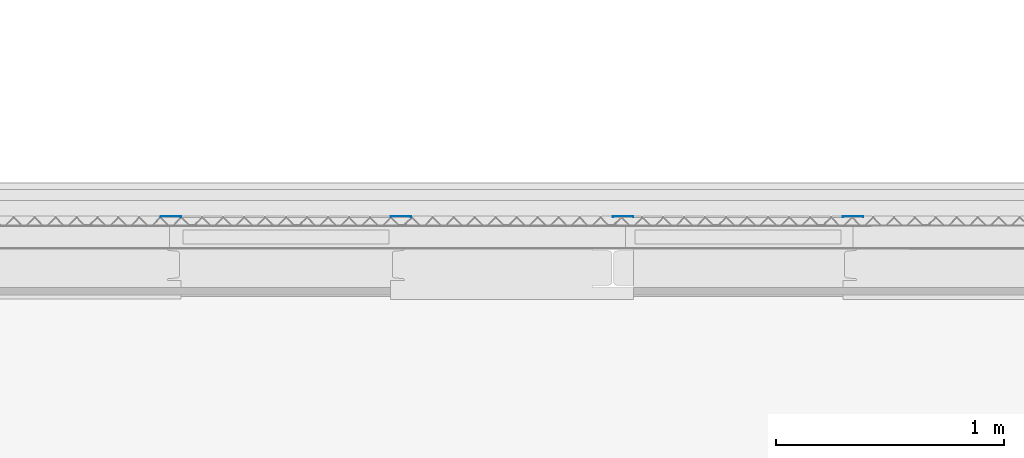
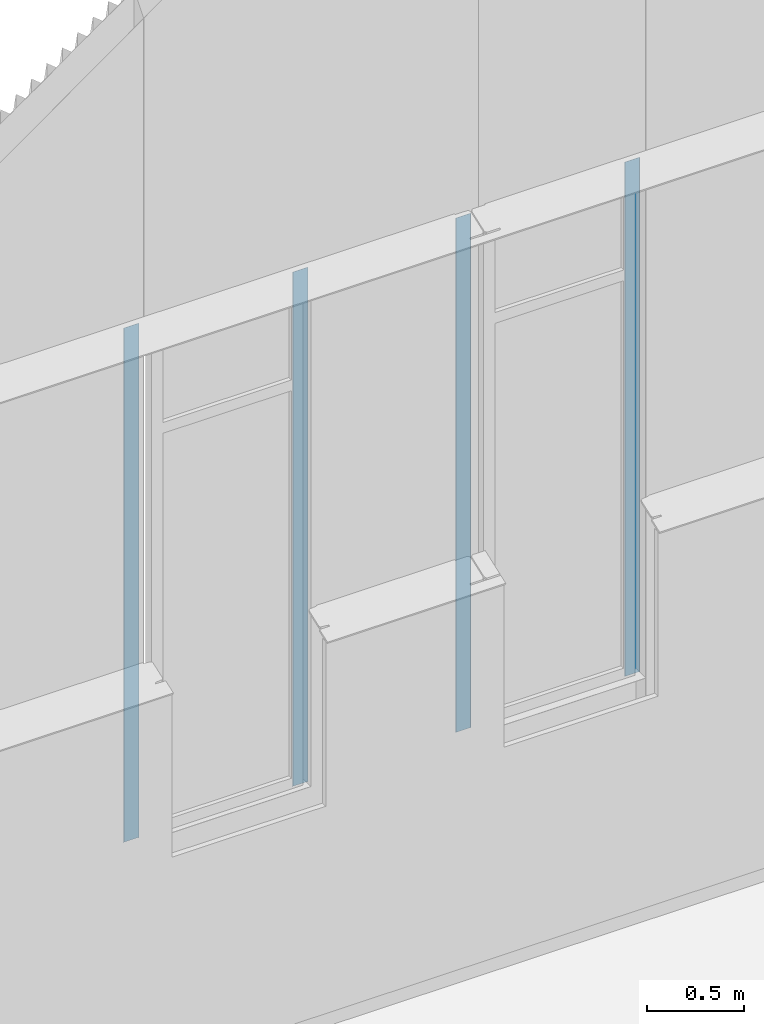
# One storey, part 35 of 338: 4 columns.
"""IFC2X3 building model written with IfcOpenShell, lengths in millimetres."""

import ifcopenshell
import ifcopenshell.guid

model = None  # the IFC model being written
_history = None  # IfcOwnerHistory: only IFC2X3 demands one
_inside = {}  # id of a spatial element -> (the spatial element, [elements in it])
_under = {}  # id of a project, library or spatial element -> (it, [spatial elements below it])
_declared = {}  # id of a project -> (the project, [libraries it declares])
_typed = {}  # id of a type object -> (the type object, [elements of that type])
_made_of = {}  # id of a material, layer set ... -> (it, [elements and type objects made of it])


def new_model(schema):
    """Start an empty IFC model of exactly this schema.

    Asked for "IFC4X3", IfcOpenShell would pick the latest addendum, in which some entities
    have other attributes; the version numbers below select the first issue.
    IFC2X3 requires an IfcOwnerHistory on every rooted entity: one is made here for all.
    """
    global model, _history
    if schema == "IFC4X3":
        model = ifcopenshell.file(schema_version=(4, 3, 0, 0))
    else:
        model = ifcopenshell.file(schema=schema)
    _inside.clear()
    _under.clear()
    _declared.clear()
    _typed.clear()
    _made_of.clear()
    _history = None
    if model.schema == "IFC2X3":
        org = make("IfcOrganization", Name="unknown")
        user = make(
            "IfcPersonAndOrganization",
            ThePerson=make("IfcPerson", FamilyName="unknown"),
            TheOrganization=org,
        )
        app = make(
            "IfcApplication",
            ApplicationDeveloper=org,
            Version="unknown",
            ApplicationFullName="unknown",
            ApplicationIdentifier="unknown",
        )
        _history = make(
            "IfcOwnerHistory",
            OwningUser=user,
            OwningApplication=app,
            ChangeAction="ADDED",
            CreationDate=0,
        )
    return model


def make(cls, **values):
    """One entity of the class cls with the attributes given. An attribute that is None is left unset."""
    return model.create_entity(
        cls, **{name: value for name, value in values.items() if value is not None}
    )


def entity(cls, *values):
    """Any entity or typed value of the class cls, its attributes in the order of the schema. None: left unset."""
    e = model.create_entity(cls)
    for i, value in enumerate(values):
        if value is not None:
            e[i] = value
    return e


def rooted(cls, **values):
    """An entity with a GlobalId (a new one), such as an element, a storey or a relation."""
    return make(cls, GlobalId=ifcopenshell.guid.new(), OwnerHistory=_history, **values)


def si_unit(unit_type, name, prefix=None):
    """IfcSIUnit, for example si_unit("LENGTHUNIT", "METRE", prefix="MILLI")."""
    return make("IfcSIUnit", UnitType=unit_type, Prefix=prefix, Name=name)


def converted_unit(unit_type, name, factor, base, dimensions=None, offset=None):
    """IfcConversionBasedUnit, such as the inch: factor (a typed value) times the base unit."""
    return make(
        "IfcConversionBasedUnit"
        if offset is None
        else "IfcConversionBasedUnitWithOffset",
        ConversionOffset=offset,
        Dimensions=None
        if dimensions is None
        else entity("IfcDimensionalExponents", *dimensions),
        UnitType=unit_type,
        Name=name,
        ConversionFactor=make(
            "IfcMeasureWithUnit", ValueComponent=factor, UnitComponent=base
        ),
    )


def derived_unit(unit_type, elements):
    """IfcDerivedUnit: a product of units, each with its exponent."""
    return make(
        "IfcDerivedUnit",
        Elements=[
            make("IfcDerivedUnitElement", Unit=unit, Exponent=power)
            for unit, power in elements
        ],
        UnitType=unit_type,
    )


def money_unit(currency):
    """IfcMonetaryUnit."""
    return make("IfcMonetaryUnit", Currency=currency)


def assignment(units):
    """IfcUnitAssignment: the units of a project."""
    return None if units is None else make("IfcUnitAssignment", Units=units)


def point(xyz):
    """IfcCartesianPoint."""
    return None if xyz is None else make("IfcCartesianPoint", Coordinates=xyz)


def direction(xyz):
    """IfcDirection."""
    return None if xyz is None else make("IfcDirection", DirectionRatios=xyz)


def frame(location, z_axis=None, x_axis=None):
    """IfcAxis2Placement3D, a coordinate frame: its origin and axes. An axis left out is left unset."""
    return make(
        "IfcAxis2Placement3D",
        Location=point(location),
        Axis=direction(z_axis),
        RefDirection=direction(x_axis),
    )


def origin_with_axes():
    """The frame at (0, 0, 0) with the z axis (0, 0, 1) and the x axis (1, 0, 0) written out."""
    return frame((0.0, 0.0, 0.0), z_axis=(0.0, 0.0, 1.0), x_axis=(1.0, 0.0, 0.0))


def place(relative_to, where):
    """IfcLocalPlacement: puts the frame where relative to a parent placement (None: the world)."""
    return make(
        "IfcLocalPlacement", PlacementRelTo=relative_to, RelativePlacement=where
    )


def context(
    kind, dimensions, precision=None, world=None, true_north=None, identifier=None
):
    """IfcGeometricRepresentationContext, for example the 3D "Model" context."""
    return make(
        "IfcGeometricRepresentationContext",
        ContextIdentifier=identifier,
        ContextType=kind,
        CoordinateSpaceDimension=dimensions,
        Precision=precision,
        WorldCoordinateSystem=world,
        TrueNorth=true_north,
    )


def subcontext(parent, identifier, kind, view, scale=None):
    """IfcGeometricRepresentationSubContext, for example "Body" below "Model"."""
    return make(
        "IfcGeometricRepresentationSubContext",
        ContextIdentifier=identifier,
        ContextType=kind,
        ParentContext=parent,
        TargetScale=scale,
        TargetView=view,
    )


def project(units=None, contexts=None):
    """IfcProject with its units and contexts."""
    return rooted(
        "IfcProject",
        Name="project",
        RepresentationContexts=contexts,
        UnitsInContext=assignment(units),
    )


def spatial(cls, under=None, at=None, **own):
    """A site, building, storey or space (cls), placed at a placement, below another one or the project."""
    s = rooted(cls, ObjectPlacement=at, **own)
    if under is not None:
        _under.setdefault(under.id(), (under, []))[1].append(s)
    return s


def faces_of(points, faces, orient=None, outer=None):
    """IfcFace entities. A face is a list of loops; a loop is a list of indices into points, from 0.

    orient and outer hold one flag for each loop. By default every Orientation is true, the
    first loop of a face is its IfcFaceOuterBound and the others are IfcFaceBound.
    """
    made = []
    for i, loops in enumerate(faces):
        bounds = []
        for j, loop in enumerate(loops):
            is_outer = j == 0 if outer is None else outer[i][j]
            bounds.append(
                make(
                    "IfcFaceOuterBound" if is_outer else "IfcFaceBound",
                    Bound=make("IfcPolyLoop", Polygon=[points[k] for k in loop]),
                    Orientation=True if orient is None else orient[i][j],
                )
            )
        made.append(make("IfcFace", Bounds=bounds))
    return made


def faceted_brep(points, faces, orient=None, outer=None, voids=None):
    """IfcFacetedBrep: a solid bounded by flat faces; with voids (closed shells), ...WithVoids."""
    shared = [point(p) for p in points]
    hull = make("IfcClosedShell", CfsFaces=faces_of(shared, faces, orient, outer))
    if voids is None:
        return make("IfcFacetedBrep", Outer=hull)
    return make(
        "IfcFacetedBrepWithVoids",
        Outer=hull,
        Voids=[
            make(cls, CfsFaces=faces_of(shared, fs, o, b)) for cls, fs, o, b in voids
        ],
    )


def shape(context_of_items, identifier, shape_type, items):
    """IfcShapeRepresentation: the items that make up one representation, for example the "Body"."""
    return make(
        "IfcShapeRepresentation",
        ContextOfItems=context_of_items,
        RepresentationIdentifier=identifier,
        RepresentationType=shape_type,
        Items=items,
    )


def material(Name=None, Category=None):
    """IfcMaterial."""
    return make("IfcMaterial", Name=Name, Category=Category)


def made_of(thing, what):
    """Note that an element or type object is made of a material, layer set ...; save() writes the relation."""
    if what is not None:
        _made_of.setdefault(what.id(), (what, []))[1].append(thing)
    return thing


def type_object(cls, material=None, **own):
    """A type object (cls), such as IfcWallType, which elements share."""
    return made_of(rooted(cls, **own), material)


def element(
    cls,
    number,
    at=None,
    inside=None,
    cuts=None,
    type_object=None,
    material=None,
    context=None,
    identifier="Body",
    shape_type=None,
    held_by="IfcProductDefinitionShape",
    body=None,
    shapes=None,
    **own,
):
    """One element of the class cls, such as IfcWall. Its Tag is "e" and its number.

    at: its placement. inside: the storey or other place that contains it. cuts: it is an
    opening in that element (IfcRelVoidsElement). A single representation is given by context,
    identifier, shape_type and body (its items); several are given by shapes. held_by: the class
    of the entity that holds the representations. save() writes the other relations.
    """
    e = rooted(cls, Tag="e%d" % number, ObjectPlacement=at, **own)
    if body is not None:
        shapes = [shape(context, identifier, shape_type, body)]
    if shapes is not None:
        e.Representation = make(held_by, Representations=shapes)
    if inside is not None:
        _inside.setdefault(inside.id(), (inside, []))[1].append(e)
    if cuts is not None:
        rooted(
            "IfcRelVoidsElement", RelatingBuildingElement=cuts, RelatedOpeningElement=e
        )
    if type_object is not None:
        _typed.setdefault(type_object.id(), (type_object, []))[1].append(e)
    return made_of(e, material)


def aggregate(whole, parts):
    """IfcRelAggregates: a whole, such as a stair, and the parts it consists of."""
    return rooted("IfcRelAggregates", RelatingObject=whole, RelatedObjects=parts)


def save(model, path):
    """Write the relations noted so far, then the file.

    IfcRelAggregates (storeys below a building ...), IfcRelContainedInSpatialStructure (elements
    in a storey), IfcRelDefinesByType, IfcRelAssociatesMaterial and IfcRelDeclares: one each for
    every whole, place, type object, material and project.
    """
    for whole, parts in _under.values():
        aggregate(whole, parts)
    for where, things in _inside.values():
        rooted(
            "IfcRelContainedInSpatialStructure",
            RelatedElements=things,
            RelatingStructure=where,
        )
    for kind, things in _typed.values():
        rooted("IfcRelDefinesByType", RelatedObjects=things, RelatingType=kind)
    for what, things in _made_of.values():
        rooted("IfcRelAssociatesMaterial", RelatedObjects=things, RelatingMaterial=what)
    for by, libraries in _declared.values():
        rooted("IfcRelDeclares", RelatingContext=by, RelatedDefinitions=libraries)
    model.write(path)


model = new_model("IFC2X3")

# Units and contexts
model_context = context("Model", 3, precision=0.01, world=origin_with_axes(), true_north=direction((0.0, 1.0)))
plan_context = context("Plan", 3, precision=0.01, world=origin_with_axes(), true_north=direction((0.0, 1.0)))
body_context = subcontext(model_context, "Body", "Model", "MODEL_VIEW")
ifc_project = project(units=[si_unit("LENGTHUNIT", "METRE", prefix="MILLI"), si_unit("AREAUNIT", "SQUARE_METRE"), si_unit("VOLUMEUNIT", "CUBIC_METRE"), converted_unit("PLANEANGLEUNIT", "DEGREE", entity("IfcPlaneAngleMeasure", 0.0174532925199), si_unit("PLANEANGLEUNIT", "RADIAN"), dimensions=[0, 0, 0, 0, 0, 0, 0]), money_unit("EUR"), converted_unit("TIMEUNIT", "Year", entity("IfcTimeMeasure", 31556926.0), si_unit("TIMEUNIT", "SECOND"), dimensions=[0, 0, 1, 0, 0, 0, 0]), si_unit("MASSUNIT", "GRAM", prefix="KILO"), si_unit("THERMODYNAMICTEMPERATUREUNIT", "DEGREE_CELSIUS"), si_unit("LUMINOUSINTENSITYUNIT", "LUMEN"), si_unit("ENERGYUNIT", "JOULE", prefix="MEGA"), derived_unit("THERMALCONDUCTANCEUNIT", [(si_unit("POWERUNIT", "WATT"), 1), (si_unit("LENGTHUNIT", "METRE"), -1), (si_unit("THERMODYNAMICTEMPERATUREUNIT", "KELVIN"), -1)]), derived_unit("SPECIFICHEATCAPACITYUNIT", [(si_unit("ENERGYUNIT", "JOULE"), 1), (si_unit("MASSUNIT", "GRAM", prefix="KILO"), -1), (si_unit("THERMODYNAMICTEMPERATUREUNIT", "KELVIN"), -1)]), derived_unit("MASSDENSITYUNIT", [(si_unit("MASSUNIT", "GRAM", prefix="KILO"), 1), (si_unit("VOLUMEUNIT", "CUBIC_METRE"), -1)])], contexts=[model_context, plan_context])

# Site, building, storey
site_placement = place(None, origin_with_axes())
site = spatial("IfcSite", under=ifc_project, at=site_placement, Name="Fortuinstraat Woensdrecht", CompositionType="ELEMENT")
building_placement = place(site_placement, origin_with_axes())
building = spatial("IfcBuilding", under=site, at=building_placement, Name="IKC Fortuna", CompositionType="ELEMENT")
storey_placement = place(building_placement, origin_with_axes())
storey = spatial("IfcBuildingStorey", under=building, at=storey_placement, Name="00 begane grond", CompositionType="ELEMENT", Elevation=0.0)

# Columns
ifc_material = material(Name="Metaal - Aluminium")
column_type_1 = type_object("IfcColumnType", Name="41 Zetwerk SW 2 115 x 74", PredefinedType="COLUMN")
column_1_placement = place(storey_placement, frame((51413.4270571, 35582.2966282, 1315.63175679), z_axis=(0.0, 0.0, 1.0), x_axis=(-1.0, 0.0, 0.0)))
element("IfcColumn", 1, at=column_1_placement, inside=storey, type_object=column_type_1, material=ifc_material, Name="28_Kolom_omtimmering kolom", ObjectType="COLUMN", context=body_context, shape_type="Brep", body=[
    faceted_brep([(25.999999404, -54.9999996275, 3249.36900995), (25.999999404, -51.0, 3249.36900995), (25.0000007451, -51.0, 3249.36900995), (25.0000007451, -56.0, 3249.36900995), (115.0, -56.0, 3249.36900995), (115.0, -50.9999996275, 3249.36900995), (113.999999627, -50.9999996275, 3249.36900995), (113.999999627, -54.9999996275, 3249.36900995), (25.999999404, -54.9999996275, 0.0), (25.999999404, -51.0, 0.0), (25.0000007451, -51.0, 0.0), (25.0000007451, -56.0, 0.0), (115.0, -56.0, 0.0), (115.0, -50.9999996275, 0.0), (113.999999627, -50.9999996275, 0.0), (113.999999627, -54.9999996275, 0.0)], [[[0, 1, 2, 3, 4, 5, 6, 7]], [[8, 9, 1, 0]], [[9, 10, 2, 1]], [[3, 2, 10, 11]], [[4, 3, 11, 12]], [[5, 4, 12, 13]], [[6, 5, 13, 14]], [[7, 6, 14, 15]], [[0, 7, 15, 8]], [[11, 10, 9, 8, 15, 14, 13, 12]]]),
])
column_2_placement = place(storey_placement, frame((52283.4270164, 35582.2966282, 1315.63175679), z_axis=(0.0, 0.0, 1.0), x_axis=(-1.0, 0.0, 0.0)))
element("IfcColumn", 2, at=column_2_placement, inside=storey, type_object=column_type_1, material=ifc_material, Name="28_Kolom_omtimmering kolom", ObjectType="COLUMN", context=body_context, shape_type="Brep", body=[
    faceted_brep([(-25.0000007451, -56.0, 3249.36900995), (-25.0000007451, -51.0, 3249.36900995), (-25.999999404, -51.0, 3249.36900995), (-25.999999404, -54.9999996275, 3249.36900995), (-113.999999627, -54.9999996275, 3249.36900995), (-113.999999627, -50.9999996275, 3249.36900995), (-115.0, -50.9999996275, 3249.36900995), (-115.0, -56.0, 3249.36900995), (-25.0000007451, -56.0, 0.0), (-25.0000007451, -51.0, 0.0), (-25.999999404, -51.0, 0.0), (-25.999999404, -54.9999996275, 0.0), (-113.999999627, -54.9999996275, 0.0), (-113.999999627, -50.9999996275, 0.0), (-115.0, -50.9999996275, 0.0), (-115.0, -56.0, 0.0)], [[[0, 1, 2, 3, 4, 5, 6, 7]], [[8, 9, 1, 0]], [[9, 10, 2, 1]], [[3, 2, 10, 11]], [[4, 3, 11, 12]], [[5, 4, 12, 13]], [[6, 5, 13, 14]], [[7, 6, 14, 15]], [[0, 7, 15, 8]], [[11, 10, 9, 8, 15, 14, 13, 12]]]),
])
column_type_2 = type_object("IfcColumnType", Name="41 Zetwerk SW 115 x 74", PredefinedType="COLUMN")
column_3_placement = place(storey_placement, frame((53398.4270571, 35582.2966282, 1315.63175679), z_axis=(0.0, 0.0, 1.0), x_axis=(-1.0, 0.0, 0.0)))
element("IfcColumn", 3, at=column_3_placement, inside=storey, type_object=column_type_2, material=ifc_material, Name="28_Kolom_omtimmering kolom", ObjectType="COLUMN", context=body_context, shape_type="Brep", body=[
    faceted_brep([(26.0, -55.0, 3249.36900995), (26.0, -51.0, 3249.36900995), (25.0, -51.0, 3249.36900995), (25.0, -56.0, 3249.36900995), (115.0, -56.0, 3249.36900995), (115.0, -51.0, 3249.36900995), (114.0, -51.0, 3249.36900995), (114.0, -55.0, 3249.36900995), (26.0, -55.0, 0.0), (26.0, -51.0, 0.0), (25.0, -51.0, 0.0), (25.0, -56.0, 0.0), (115.0, -56.0, 0.0), (115.0, -51.0, 0.0), (114.0, -51.0, 0.0), (114.0, -55.0, 0.0)], [[[0, 1, 2, 3, 4, 5, 6, 7]], [[8, 9, 1, 0]], [[9, 10, 2, 1]], [[3, 2, 10, 11]], [[4, 3, 11, 12]], [[12, 13, 5, 4]], [[13, 14, 6, 5]], [[7, 6, 14, 15]], [[0, 7, 15, 8]], [[11, 10, 9, 8, 15, 14, 13, 12]]]),
])
column_4_placement = place(storey_placement, frame((54268.4270571, 35582.2966282, 1315.63175679), z_axis=(0.0, 0.0, 1.0), x_axis=(-1.0, 0.0, 0.0)))
element("IfcColumn", 4, at=column_4_placement, inside=storey, type_object=column_type_2, material=ifc_material, Name="28_Kolom_omtimmering kolom", ObjectType="COLUMN", context=body_context, shape_type="Brep", body=[
    faceted_brep([(-114.0, -55.0, 3249.36900995), (-114.0, -51.0, 3249.36900995), (-115.0, -51.0, 3249.36900995), (-115.0, -56.0, 3249.36900995), (-25.0, -56.0, 3249.36900995), (-25.0, -51.0, 3249.36900995), (-26.0, -51.0, 3249.36900995), (-26.0, -55.0, 3249.36900995), (-114.0, -55.0, 0.0), (-114.0, -51.0, 0.0), (-115.0, -51.0, 0.0), (-115.0, -56.0, 0.0), (-25.0, -56.0, 0.0), (-25.0, -51.0, 0.0), (-26.0, -51.0, 0.0), (-26.0, -55.0, 0.0)], [[[0, 1, 2, 3, 4, 5, 6, 7]], [[8, 9, 1, 0]], [[9, 10, 2, 1]], [[3, 2, 10, 11]], [[4, 3, 11, 12]], [[12, 13, 5, 4]], [[13, 14, 6, 5]], [[7, 6, 14, 15]], [[0, 7, 15, 8]], [[11, 10, 9, 8, 15, 14, 13, 12]]]),
])

save(model, "model.ifc")
